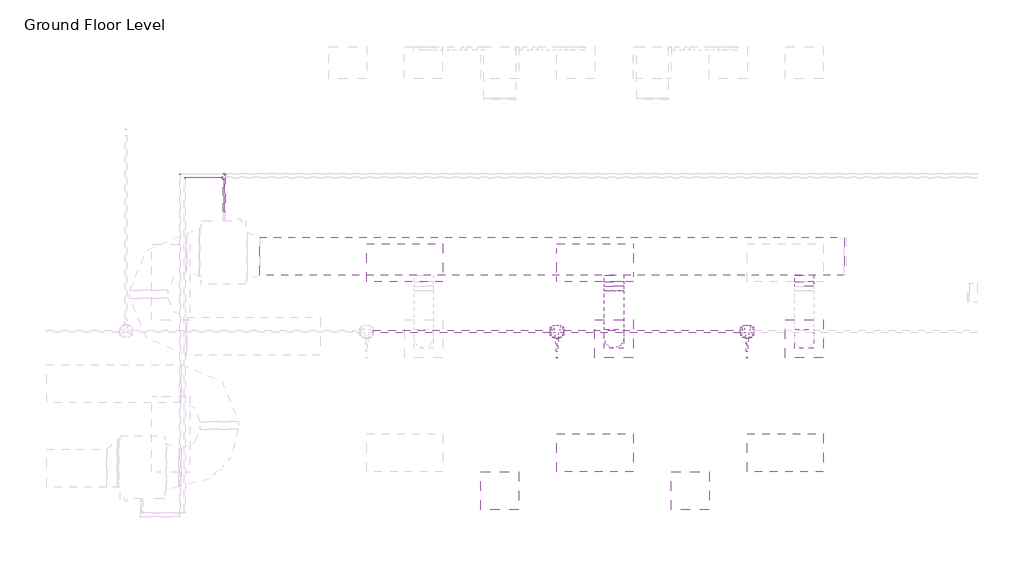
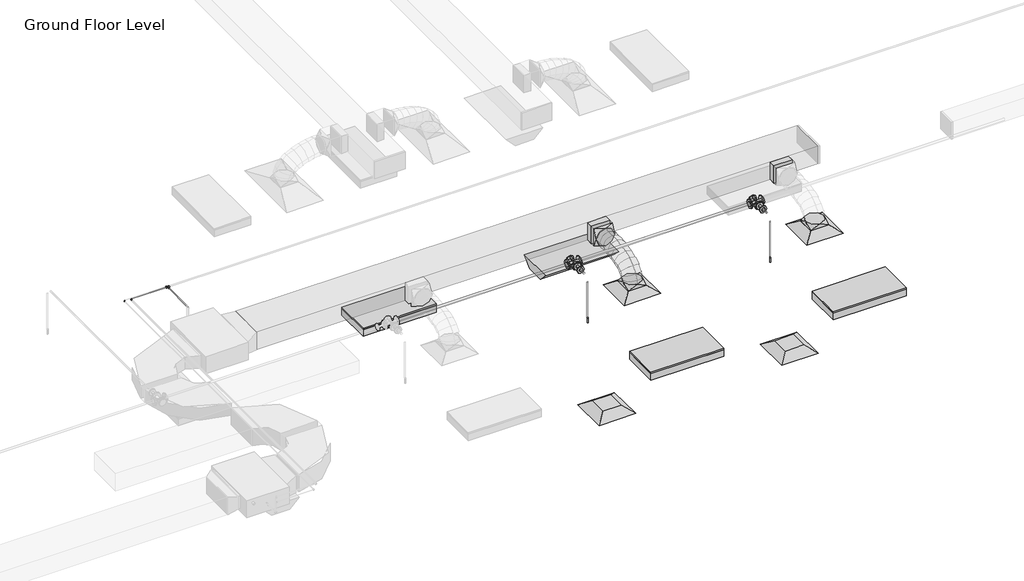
# One storey, part 13 of 75: 12 pipe fittings, 9 pipe segments, 5 duct fittings, 4 air terminals, 4 duct segments, 4 light fixtures, 2 fire suppression terminals.
"""IFC4 building model written with IfcOpenShell, lengths in millimetres."""

from ifc_helpers import new_model, si_unit, point, frame, frame_2d, origin, place, context, project, spatial, polyline, circle_curve, ellipse_curve, trimmed, segment, composite_curve, outline, extrude, transform, mapped, element, save
from ifc_brep_helpers import plane_surface, cylinder_surface, advanced_brep
from components import m_return_diffuser_600_x_600_face_300_x_300_connection_ff221211, m_rectangular_takeoff_standard_2be5eba1, m_rectangular_to_round_transition_angle_45_degree_641efff0, m_sprinkler_dry_pendent_hosted_15_mm_dry_pendent_9bda8e11, m_emergency_recessed_lighting_fixture_600x1200_277_5b10b25d, m_troffer_light_parabolic_rectangular1_0600x1200mm_4_lamp_86473d4a, m_elbow_generic_standard_a088f956, m_elbow_generic_standard_2a704253, m_reducer_flanged_cs_class_150_standard_678fb8eb, m_tee_generic_standard_5b2ed4d4, m_tee_generic_standard_5078887e, m_tee_round_base_flanged_cs_class_150_standard_9c9133d0, m_transition_generic_standard_bdcfe2c1, m_transition_generic_standard_44e35838, m_transition_generic_standard_0bb1ffaf, m_transition_generic_standard_cdf71458

model = new_model("IFC4")

# Units and contexts
model_context = context("Model", 3, world=origin())
ifc_project = project(units=[si_unit("LENGTHUNIT", "METRE", prefix="MILLI")], contexts=[model_context])

# Site, building, storey
site = spatial("IfcSite", under=ifc_project)
building = spatial("IfcBuilding", under=site)
storey = spatial("IfcBuildingStorey", under=building, Name="Ground Floor Level", Elevation=900.0)

# Air terminals
placement = place(None, origin())
m_return_diffuser_600_x_600_face_300_x_300_connection_shape = m_return_diffuser_600_x_600_face_300_x_300_connection_ff221211(model_context)
element("IfcAirTerminal", 1, ObjectType="M_Return Diffuser : 600 x 600 Face 300 x 300 Connection", at=placement, inside=storey, context=model_context, shape_type="MappedRepresentation", body=[
    mapped(m_return_diffuser_600_x_600_face_300_x_300_connection_shape, transform((-6937.2327605, -5464.7846466, 3650.0), x_axis=(1.0, 0.0, 0.0), y_axis=(0.0, 1.0, 0.0), z_axis=(0.0, 0.0, 1.0))),
])
element("IfcAirTerminal", 2, ObjectType="M_Return Diffuser : 600 x 600 Face 300 x 300 Connection", at=placement, inside=storey, context=model_context, shape_type="MappedRepresentation", body=[
    mapped(m_return_diffuser_600_x_600_face_300_x_300_connection_shape, transform((-3937.2327605, -5464.7846466, 3650.0), x_axis=(1.0, 0.0, 0.0), y_axis=(0.0, 1.0, 0.0), z_axis=(0.0, 0.0, 1.0))),
])
element("IfcAirTerminal", 3, ObjectType="M_Supply Diffuser : 600 x 600 Face 300 x 300 Connection", at=placement, inside=storey, context=model_context, shape_type="MappedRepresentation", body=[
    mapped(m_return_diffuser_600_x_600_face_300_x_300_connection_shape, transform((-5137.2327605, -3064.7846466, 3650.0), x_axis=(1.0, 0.0, 0.0), y_axis=(0.0, 1.0, 0.0), z_axis=(0.0, 0.0, 1.0))),
])
element("IfcAirTerminal", 4, ObjectType="M_Supply Diffuser : 600 x 600 Face 300 x 300 Connection", at=placement, inside=storey, context=model_context, shape_type="MappedRepresentation", body=[
    mapped(m_return_diffuser_600_x_600_face_300_x_300_connection_shape, transform((-2137.2327605, -3064.7846466, 3650.0), x_axis=(1.0, 0.0, 0.0), y_axis=(0.0, 1.0, 0.0), z_axis=(0.0, 0.0, 1.0))),
])

# Duct fittings
m_rectangular_takeoff_standard_shape = m_rectangular_takeoff_standard_2be5eba1(model_context)
element("IfcDuctFitting", 5, ObjectType="M_Rectangular Takeoff : Standard", at=placement, inside=storey, context=model_context, shape_type="MappedRepresentation", body=[
    mapped(m_rectangular_takeoff_standard_shape, transform((-2137.2327605, -2068.2846466, 4099.9882429), x_axis=(0.0, -1.0, 0.0), y_axis=(-1.0, 0.0, 0.0), z_axis=(0.0, 0.0, -1.0))),
])
element("IfcDuctFitting", 6, ObjectType="M_Rectangular Takeoff : Standard", at=placement, inside=storey, context=model_context, shape_type="MappedRepresentation", body=[
    mapped(m_rectangular_takeoff_standard_shape, transform((-5137.2327605, -2068.2846466, 4099.9923494), x_axis=(0.0, -1.0, 0.0), y_axis=(-1.0, 0.0, 0.0), z_axis=(0.0, 0.0, -1.0))),
])
m_rectangular_to_round_transition_angle_45_degree_shape = m_rectangular_to_round_transition_angle_45_degree_641efff0(model_context)
element("IfcDuctFitting", 7, ObjectType="M_Rectangular to Round Transition - Angle : 45 Degree", at=placement, inside=storey, context=model_context, shape_type="MappedRepresentation", body=[
    mapped(m_rectangular_to_round_transition_angle_45_degree_shape, transform((-2137.2327605, -3064.7846466, 3751.6), x_axis=(0.0, 0.0, 1.0), y_axis=(-1.0, 0.0, 0.0), z_axis=(0.0, -1.0, 0.0))),
])
element("IfcDuctFitting", 8, ObjectType="M_Rectangular to Round Transition - Angle : 45 Degree", at=placement, inside=storey, context=model_context, shape_type="MappedRepresentation", body=[
    mapped(m_rectangular_to_round_transition_angle_45_degree_shape, transform((-5137.2327605, -3064.7846466, 3751.6), x_axis=(0.0, 0.0, 1.0), y_axis=(-1.0, 0.0, 0.0), z_axis=(0.0, -1.0, 0.0))),
])
element("IfcDuctFitting", 9, ObjectType="M_Rectangular to Round Transition - Angle : 45 Degree", at=placement, inside=storey, context=model_context, shape_type="MappedRepresentation", body=[
    mapped(m_rectangular_to_round_transition_angle_45_degree_shape, transform((-5137.2327605, -2237.4410647, 4099.9923494), x_axis=(0.0, -1.0, 0.0), y_axis=(1.0, 0.0, 0.0), z_axis=(0.0, 0.0, 1.0))),
])

# Duct segments
element("IfcDuctSegment", 10, ObjectType="Flex - Round", at=placement, inside=storey, context=model_context, shape_type="AdvancedBrep", body=[
    advanced_brep(
    [(-4987.2327605, -3064.7846466, 3826.6), (-5137.2327605, -3214.7846466, 3826.6), (-5287.2327605, -3064.7846466, 3826.6), (-5137.2327605, -2914.7846466, 3826.6), (-4987.2327605, -3064.7846466, 3857.9380326), (-5137.2327605, -3214.7846466, 3883.5816473), (-5287.2327605, -3064.7846466, 3857.9380326), (-5137.2327605, -2914.7846466, 3832.2944178), (-4987.2327605, -3047.7685019, 3906.2507123), (-5137.2327605, -3181.505999, 3978.0672475), (-5287.2327605, -3047.7685019, 3906.2507123), (-5137.2327605, -2914.0310048, 3834.4341772), (-4987.2327605, -3000.584044, 3968.710963), (-5137.2327605, -3104.7886338, 4079.6215744), (-5287.2327605, -3000.584044, 3968.710963), (-5137.2327605, -2896.3794543, 3857.8003516), (-4987.2327605, -2929.0272371, 4016.0687585), (-5137.2327605, -2997.9592292, 4150.3235149), (-5287.2327605, -2929.0272371, 4016.0687585), (-5137.2327605, -2860.095245, 3881.8140022), (-4987.2327605, -2838.8940455, 4050.4121057), (-5137.2327605, -2882.4525531, 4194.3348919), (-5287.2327605, -2838.8940455, 4050.4121057), (-5137.2327605, -2795.3355379, 3906.4893195), (-4987.2327605, -2735.9804334, 4073.8290112), (-5137.2327605, -2762.5392192, 4221.6199045), (-5287.2327605, -2735.9804334, 4073.8290112), (-5137.2327605, -2709.4216475, 3926.0381179), (-4987.2327605, -2626.082365, 4088.4074817), (-5137.2327605, -2641.2314089, 4237.7119283), (-5287.2327605, -2626.082365, 4088.4074817), (-5137.2327605, -2610.9333211, 3939.103035), (-4987.2327605, -2514.9958046, 4096.2355237), (-5137.2327605, -2522.4996869, 4246.0787092), (-5287.2327605, -2514.9958046, 4096.2355237), (-5137.2327605, -2507.4919223, 3946.3923382), (-4987.2327605, -2408.5167164, 4099.4011441), (-5137.2327605, -2411.2073599, 4249.387427), (-5287.2327605, -2408.5167164, 4099.4011441), (-5137.2327605, -2405.8260729, 3949.4148611), (-4987.2327605, -2312.4410647, 4099.9923494), (-5137.2327605, -2311.5180513, 3949.9951892), (-5287.2327605, -2312.4410647, 4099.9923494), (-5137.2327605, -2313.3640781, 4249.9895095)],
    [
        (0, 1, circle_curve(frame((-5137.2327605, -3064.7846466, 3826.6), z_axis=(0.0, 0.0, -1.0), x_axis=(1.0, 0.0, 0.0)), 150.0)),
        (1, 2, circle_curve(frame((-5137.2327605, -3064.7846466, 3826.6), z_axis=(0.0, 0.0, -1.0), x_axis=(1.0, 0.0, 0.0)), 150.0)),
        (2, 3, circle_curve(frame((-5137.2327605, -3064.7846466, 3826.6), z_axis=(0.0, 0.0, -1.0), x_axis=(1.0, 0.0, 0.0)), 150.0)),
        (3, 0, circle_curve(frame((-5137.2327605, -3064.7846466, 3826.6), z_axis=(0.0, 0.0, -1.0), x_axis=(1.0, 0.0, 0.0)), 150.0)),
        (0, 4),
        (4, 5, ellipse_curve(frame((-5137.2327605, -3064.7846466, 3857.9380326), z_axis=(0.0, -0.16851265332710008, -0.9856994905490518), x_axis=(0.0, 0.9856994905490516, -0.16851265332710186)), 152.1761971, 150.0)),
        (5, 1),
        (5, 6, ellipse_curve(frame((-5137.2327605, -3064.7846466, 3857.9380326), z_axis=(0.0, -0.16851265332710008, -0.9856994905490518), x_axis=(0.0, 0.9856994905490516, -0.16851265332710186)), 152.1761971, 150.0)),
        (6, 2),
        (6, 7, ellipse_curve(frame((-5137.2327605, -3064.7846466, 3857.9380326), z_axis=(0.0, -0.16851265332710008, -0.9856994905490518), x_axis=(0.0, 0.9856994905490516, -0.16851265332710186)), 152.1761971, 150.0)),
        (7, 3),
        (7, 4, ellipse_curve(frame((-5137.2327605, -3064.7846466, 3857.9380326), z_axis=(0.0, -0.16851265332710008, -0.9856994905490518), x_axis=(0.0, 0.9856994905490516, -0.16851265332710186)), 152.1761971, 150.0)),
        (4, 8),
        (8, 9, ellipse_curve(frame((-5137.2327605, -3047.7685019, 3906.2507123), z_axis=(0.0, -0.47309875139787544, -0.881009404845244), x_axis=(0.0, 0.8810094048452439, -0.47309875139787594)), 151.8003058, 150.0)),
        (9, 5),
        (9, 10, ellipse_curve(frame((-5137.2327605, -3047.7685019, 3906.2507123), z_axis=(0.0, -0.47309875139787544, -0.881009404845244), x_axis=(0.0, 0.8810094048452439, -0.47309875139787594)), 151.8003058, 150.0)),
        (10, 6),
        (10, 11, ellipse_curve(frame((-5137.2327605, -3047.7685019, 3906.2507123), z_axis=(0.0, -0.47309875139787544, -0.881009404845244), x_axis=(0.0, 0.8810094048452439, -0.47309875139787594)), 151.8003058, 150.0)),
        (11, 7),
        (11, 8, ellipse_curve(frame((-5137.2327605, -3047.7685019, 3906.2507123), z_axis=(0.0, -0.47309875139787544, -0.881009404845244), x_axis=(0.0, 0.8810094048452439, -0.47309875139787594)), 151.8003058, 150.0)),
        (8, 12),
        (12, 13, ellipse_curve(frame((-5137.2327605, -3000.584044, 3968.710963), z_axis=(0.0, -0.7287961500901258, -0.6847307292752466), x_axis=(0.0, 0.6847307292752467, -0.7287961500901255)), 152.1833113, 150.0)),
        (13, 9),
        (13, 14, ellipse_curve(frame((-5137.2327605, -3000.584044, 3968.710963), z_axis=(0.0, -0.7287961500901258, -0.6847307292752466), x_axis=(0.0, 0.6847307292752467, -0.7287961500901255)), 152.1833113, 150.0)),
        (14, 10),
        (14, 15, ellipse_curve(frame((-5137.2327605, -3000.584044, 3968.710963), z_axis=(0.0, -0.7287961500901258, -0.6847307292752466), x_axis=(0.0, 0.6847307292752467, -0.7287961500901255)), 152.1833113, 150.0)),
        (15, 11),
        (15, 12, ellipse_curve(frame((-5137.2327605, -3000.584044, 3968.710963), z_axis=(0.0, -0.7287961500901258, -0.6847307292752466), x_axis=(0.0, 0.6847307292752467, -0.7287961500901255)), 152.1833113, 150.0)),
        (12, 16),
        (16, 17, ellipse_curve(frame((-5137.2327605, -2929.0272371, 4016.0687585), z_axis=(0.0, -0.8895929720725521, -0.4567541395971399), x_axis=(0.0, 0.45675413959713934, -0.8895929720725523)), 150.9170604, 150.0)),
        (17, 13),
        (17, 18, ellipse_curve(frame((-5137.2327605, -2929.0272371, 4016.0687585), z_axis=(0.0, -0.8895929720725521, -0.4567541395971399), x_axis=(0.0, 0.45675413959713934, -0.8895929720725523)), 150.9170604, 150.0)),
        (18, 14),
        (18, 19, ellipse_curve(frame((-5137.2327605, -2929.0272371, 4016.0687585), z_axis=(0.0, -0.8895929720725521, -0.4567541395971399), x_axis=(0.0, 0.45675413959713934, -0.8895929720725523)), 150.9170604, 150.0)),
        (19, 15),
        (19, 16, ellipse_curve(frame((-5137.2327605, -2929.0272371, 4016.0687585), z_axis=(0.0, -0.8895929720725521, -0.4567541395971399), x_axis=(0.0, 0.45675413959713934, -0.8895929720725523)), 150.9170604, 150.0)),
        (16, 20),
        (20, 21, ellipse_curve(frame((-5137.2327605, -2838.8940455, 4050.4121057), z_axis=(0.0, -0.9571248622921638, -0.2896756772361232), x_axis=(0.0, 0.28967567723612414, -0.9571248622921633)), 150.3699171, 150.0)),
        (21, 17),
        (21, 22, ellipse_curve(frame((-5137.2327605, -2838.8940455, 4050.4121057), z_axis=(0.0, -0.9571248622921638, -0.2896756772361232), x_axis=(0.0, 0.28967567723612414, -0.9571248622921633)), 150.3699171, 150.0)),
        (22, 18),
        (22, 23, ellipse_curve(frame((-5137.2327605, -2838.8940455, 4050.4121057), z_axis=(0.0, -0.9571248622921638, -0.2896756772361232), x_axis=(0.0, 0.28967567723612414, -0.9571248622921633)), 150.3699171, 150.0)),
        (23, 19),
        (23, 20, ellipse_curve(frame((-5137.2327605, -2838.8940455, 4050.4121057), z_axis=(0.0, -0.9571248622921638, -0.2896756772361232), x_axis=(0.0, 0.28967567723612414, -0.9571248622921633)), 150.3699171, 150.0)),
        (20, 24),
        (24, 25, ellipse_curve(frame((-5137.2327605, -2735.9804334, 4073.8290112), z_axis=(0.0, -0.984233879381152, -0.17687190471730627), x_axis=(0.0, 0.17687190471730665, -0.984233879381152)), 150.1583073, 150.0)),
        (25, 21),
        (25, 26, ellipse_curve(frame((-5137.2327605, -2735.9804334, 4073.8290112), z_axis=(0.0, -0.984233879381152, -0.17687190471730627), x_axis=(0.0, 0.17687190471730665, -0.984233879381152)), 150.1583073, 150.0)),
        (26, 22),
        (26, 27, ellipse_curve(frame((-5137.2327605, -2735.9804334, 4073.8290112), z_axis=(0.0, -0.984233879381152, -0.17687190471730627), x_axis=(0.0, 0.17687190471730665, -0.984233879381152)), 150.1583073, 150.0)),
        (27, 23),
        (27, 24, ellipse_curve(frame((-5137.2327605, -2735.9804334, 4073.8290112), z_axis=(0.0, -0.984233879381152, -0.17687190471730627), x_axis=(0.0, 0.17687190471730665, -0.984233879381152)), 150.1583073, 150.0)),
        (24, 28),
        (28, 29, ellipse_curve(frame((-5137.2327605, -2626.082365, 4088.4074817), z_axis=(0.0, -0.9948919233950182, -0.1009458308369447), x_axis=(0.0, 0.10094583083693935, -0.9948919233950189)), 150.0710209, 150.0)),
        (29, 25),
        (29, 30, ellipse_curve(frame((-5137.2327605, -2626.082365, 4088.4074817), z_axis=(0.0, -0.9948919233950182, -0.1009458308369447), x_axis=(0.0, 0.10094583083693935, -0.9948919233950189)), 150.0710209, 150.0)),
        (30, 26),
        (30, 31, ellipse_curve(frame((-5137.2327605, -2626.082365, 4088.4074817), z_axis=(0.0, -0.9948919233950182, -0.1009458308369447), x_axis=(0.0, 0.10094583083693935, -0.9948919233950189)), 150.0710209, 150.0)),
        (31, 27),
        (31, 28, ellipse_curve(frame((-5137.2327605, -2626.082365, 4088.4074817), z_axis=(0.0, -0.9948919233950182, -0.1009458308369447), x_axis=(0.0, 0.10094583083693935, -0.9948919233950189)), 150.0710209, 150.0)),
        (28, 32),
        (32, 33, ellipse_curve(frame((-5137.2327605, -2514.9958046, 4096.2355237), z_axis=(0.0, -0.9987484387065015, -0.05001555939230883), x_axis=(0.0, 0.05001555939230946, -0.9987484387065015)), 150.0309584, 150.0)),
        (33, 29),
        (33, 34, ellipse_curve(frame((-5137.2327605, -2514.9958046, 4096.2355237), z_axis=(0.0, -0.9987484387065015, -0.05001555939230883), x_axis=(0.0, 0.05001555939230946, -0.9987484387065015)), 150.0309584, 150.0)),
        (34, 30),
        (34, 35, ellipse_curve(frame((-5137.2327605, -2514.9958046, 4096.2355237), z_axis=(0.0, -0.9987484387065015, -0.05001555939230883), x_axis=(0.0, 0.05001555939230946, -0.9987484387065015)), 150.0309584, 150.0)),
        (35, 31),
        (35, 32, ellipse_curve(frame((-5137.2327605, -2514.9958046, 4096.2355237), z_axis=(0.0, -0.9987484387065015, -0.05001555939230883), x_axis=(0.0, 0.05001555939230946, -0.9987484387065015)), 150.0309584, 150.0)),
        (32, 36),
        (36, 37, ellipse_curve(frame((-5137.2327605, -2408.5167164, 4099.4011441), z_axis=(0.0, -0.9998391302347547, -0.01793637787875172), x_axis=(0.0, 0.017936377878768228, -0.9998391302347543)), 150.0104151, 150.0)),
        (37, 33),
        (37, 38, ellipse_curve(frame((-5137.2327605, -2408.5167164, 4099.4011441), z_axis=(0.0, -0.9998391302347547, -0.01793637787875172), x_axis=(0.0, 0.017936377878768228, -0.9998391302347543)), 150.0104151, 150.0)),
        (38, 34),
        (38, 39, ellipse_curve(frame((-5137.2327605, -2408.5167164, 4099.4011441), z_axis=(0.0, -0.9998391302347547, -0.01793637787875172), x_axis=(0.0, 0.017936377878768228, -0.9998391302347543)), 150.0104151, 150.0)),
        (39, 35),
        (39, 36, ellipse_curve(frame((-5137.2327605, -2408.5167164, 4099.4011441), z_axis=(0.0, -0.9998391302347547, -0.01793637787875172), x_axis=(0.0, 0.017936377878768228, -0.9998391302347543)), 150.0104151, 150.0)),
        (40, 41, circle_curve(frame((-5137.2327605, -2312.4410647, 4099.9923494), z_axis=(0.0, 0.9999810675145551, 0.0061534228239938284), x_axis=(1.0, 0.0, 0.0)), 150.0)),
        (41, 42, circle_curve(frame((-5137.2327605, -2312.4410647, 4099.9923494), z_axis=(0.0, 0.9999810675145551, 0.0061534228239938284), x_axis=(1.0, 0.0, 0.0)), 150.0)),
        (42, 43, circle_curve(frame((-5137.2327605, -2312.4410647, 4099.9923494), z_axis=(0.0, 0.9999810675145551, 0.0061534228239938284), x_axis=(1.0, 0.0, 0.0)), 150.0)),
        (43, 40, circle_curve(frame((-5137.2327605, -2312.4410647, 4099.9923494), z_axis=(0.0, 0.9999810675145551, 0.0061534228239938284), x_axis=(1.0, 0.0, 0.0)), 150.0)),
        (36, 40),
        (43, 37),
        (42, 38),
        (41, 39),
    ],
    [
        plane_surface(frame((-5137.2327605, -3214.7846466, 3826.6), z_axis=(0.0, 0.0, -1.0), x_axis=(1.0, 0.0, 0.0))),
        cylinder_surface(frame((-5137.2327605, -3064.7846466, 3826.6), z_axis=(0.0, 0.0, -1.0), x_axis=(1.0, 0.0, 0.0)), 150.0),
        cylinder_surface(frame((-5137.2327605, -3064.7846466, 3857.9380326), z_axis=(0.0, -0.33220567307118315, -0.9432069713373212), x_axis=(1.0, 0.0, 0.0)), 150.0),
        cylinder_surface(frame((-5137.2327605, -3047.7685019, 3906.2507123), z_axis=(0.0, -0.6027702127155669, -0.797914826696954), x_axis=(1.0, 0.0, 0.0)), 150.0),
        cylinder_surface(frame((-5137.2327605, -3000.584044, 3968.710963), z_axis=(0.0, -0.8339106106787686, -0.5518995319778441), x_axis=(1.0, 0.0, 0.0)), 150.0),
        cylinder_surface(frame((-5137.2327605, -2929.0272371, 4016.0687585), z_axis=(0.0, -0.9344639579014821, -0.3560577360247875), x_axis=(1.0, 0.0, 0.0)), 150.0),
        cylinder_surface(frame((-5137.2327605, -2838.8940455, 4050.4121057), z_axis=(0.0, -0.9750766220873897, -0.22186838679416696), x_axis=(1.0, 0.0, 0.0)), 150.0),
        cylinder_surface(frame((-5137.2327605, -2735.9804334, 4073.8290112), z_axis=(0.0, -0.9913158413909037, -0.13150248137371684), x_axis=(1.0, 0.0, 0.0)), 150.0),
        cylinder_surface(frame((-5137.2327605, -2626.082365, 4088.4074817), z_axis=(0.0, -0.9975263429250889, -0.07029363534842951), x_axis=(1.0, 0.0, 0.0)), 150.0),
        cylinder_surface(frame((-5137.2327605, -2514.9958046, 4096.2355237), z_axis=(0.0, -0.9995583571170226, -0.029716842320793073), x_axis=(1.0, 0.0, 0.0)), 150.0),
        plane_surface(frame((-5137.2327605, -2313.3640781, 4249.9895095), z_axis=(0.0, 0.9999810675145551, 0.006153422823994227), x_axis=(1.0, 0.0, 0.0))),
        cylinder_surface(frame((-5137.2327605, -2408.5167164, 4099.4011441), z_axis=(0.0, -0.9999810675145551, -0.0061534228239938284), x_axis=(1.0, 0.0, 0.0)), 150.0),
    ],
    [
        (0, [[1, 2, 3, 4]]),
        (1, [[-1, 5, 6, 7]]),
        (1, [[-2, -7, 8, 9]]),
        (1, [[-3, -9, 10, 11]]),
        (1, [[-4, -11, 12, -5]]),
        (2, [[-6, 13, 14, 15]]),
        (2, [[-8, -15, 16, 17]]),
        (2, [[-10, -17, 18, 19]]),
        (2, [[-12, -19, 20, -13]]),
        (3, [[-14, 21, 22, 23]]),
        (3, [[-16, -23, 24, 25]]),
        (3, [[-18, -25, 26, 27]]),
        (3, [[-20, -27, 28, -21]]),
        (4, [[-22, 29, 30, 31]]),
        (4, [[-24, -31, 32, 33]]),
        (4, [[-26, -33, 34, 35]]),
        (4, [[-28, -35, 36, -29]]),
        (5, [[-30, 37, 38, 39]]),
        (5, [[-32, -39, 40, 41]]),
        (5, [[-34, -41, 42, 43]]),
        (5, [[-36, -43, 44, -37]]),
        (6, [[-38, 45, 46, 47]]),
        (6, [[-40, -47, 48, 49]]),
        (6, [[-42, -49, 50, 51]]),
        (6, [[-44, -51, 52, -45]]),
        (7, [[-46, 53, 54, 55]]),
        (7, [[-48, -55, 56, 57]]),
        (7, [[-50, -57, 58, 59]]),
        (7, [[-52, -59, 60, -53]]),
        (8, [[-54, 61, 62, 63]]),
        (8, [[-56, -63, 64, 65]]),
        (8, [[-58, -65, 66, 67]]),
        (8, [[-60, -67, 68, -61]]),
        (9, [[-62, 69, 70, 71]]),
        (9, [[-64, -71, 72, 73]]),
        (9, [[-66, -73, 74, 75]]),
        (9, [[-68, -75, 76, -69]]),
        (10, [[77, 78, 79, 80]]),
        (11, [[-70, 81, -80, 82]]),
        (11, [[-72, -82, -79, 83]]),
        (11, [[-74, -83, -78, 84]]),
        (11, [[-76, -84, -77, -81]]),
    ],
),
])
element("IfcDuctSegment", 11, ObjectType="Radius Elbows / Taps", at=placement, inside=storey, context=model_context, shape_type="SweptSolid", body=[
    extrude(outline(polyline([(0.0, -600.0), (0.0, 0.0), (9224.5995898, 0.0), (9224.5995898, -600.0), (0.0, -600.0)])), frame((-10726.4325556, -1468.2846466, 3950.0), z_axis=(1.3688243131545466e-06, 0.0, 0.9999999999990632), x_axis=(0.9999999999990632, 0.0, -1.3688243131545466e-06)), (0.0, 0.0, 1.0), 300.0),
])
element("IfcDuctSegment", 12, ObjectType="Radius Elbows / Taps", at=placement, inside=storey, context=model_context, shape_type="SweptSolid", body=[
    extrude(outline(polyline([(-2287.2327605, -2169.8846466), (-1987.2327605, -2169.8846466), (-1987.2327605, -2237.4369582), (-2287.2327605, -2237.4369582), (-2287.2327605, -2169.8846466)])), frame((0.0, 0.0, 3949.9882429), z_axis=(0.0, 0.0, 1.0), x_axis=(1.0, 0.0, 0.0)), (0.0, 0.0, 1.0), 300.0),
])
element("IfcDuctSegment", 13, ObjectType="Radius Elbows / Taps", at=placement, inside=storey, context=model_context, shape_type="SweptSolid", body=[
    extrude(outline(polyline([(-5287.2327605, -2169.8846466), (-4987.2327605, -2169.8846466), (-4987.2327605, -2237.4410647), (-5287.2327605, -2237.4410647), (-5287.2327605, -2169.8846466)])), frame((0.0, 0.0, 3949.9923494), z_axis=(0.0, 0.0, 1.0), x_axis=(1.0, 0.0, 0.0)), (0.0, 0.0, 1.0), 300.0),
])

# Fire suppression terminals
m_sprinkler_dry_pendent_hosted_15_mm_dry_pendent_shape = m_sprinkler_dry_pendent_hosted_15_mm_dry_pendent_9bda8e11(model_context)
element("IfcFireSuppressionTerminal", 14, ObjectType="M_Sprinkler - Dry - Pendent - Hosted : 15 mm Dry Pendent", at=placement, inside=storey, context=model_context, shape_type="MappedRepresentation", body=[
    mapped(m_sprinkler_dry_pendent_hosted_15_mm_dry_pendent_shape, transform((-6037.2327605, -3364.7846466, 3650.0), x_axis=(1.0, 0.0, 0.0), y_axis=(0.0, -1.0, 0.0), z_axis=(0.0, 0.0, -1.0))),
])
element("IfcFireSuppressionTerminal", 15, ObjectType="M_Sprinkler - Dry - Pendent - Hosted : 15 mm Dry Pendent", at=placement, inside=storey, context=model_context, shape_type="MappedRepresentation", body=[
    mapped(m_sprinkler_dry_pendent_hosted_15_mm_dry_pendent_shape, transform((-3037.2327605, -3364.7846466, 3650.0), x_axis=(1.0, 0.0, 0.0), y_axis=(0.0, -1.0, 0.0), z_axis=(0.0, 0.0, -1.0))),
])

# Light fixtures
m_emergency_recessed_lighting_fixture_600x1200_277_shape = m_emergency_recessed_lighting_fixture_600x1200_277_5b10b25d(model_context)
element("IfcLightFixture", 16, ObjectType="M_Emergency Recessed Lighting Fixture : 600x1200 - 277", at=placement, inside=storey, context=model_context, shape_type="MappedRepresentation", body=[
    mapped(m_emergency_recessed_lighting_fixture_600x1200_277_shape, transform((-6037.2327605, -1564.7846466, 3650.0), x_axis=(1.0, 0.0, 0.0), y_axis=(0.0, 1.0, 0.0), z_axis=(0.0, 0.0, 1.0))),
])
m_troffer_light_parabolic_rectangular1_0600x1200mm_4_lamp_shape = m_troffer_light_parabolic_rectangular1_0600x1200mm_4_lamp_86473d4a(model_context)
element("IfcLightFixture", 17, ObjectType="M_Troffer Light - Parabolic Rectangular1 : 0600x1200mm(4 Lamp) - 277V 2", at=placement, inside=storey, context=model_context, shape_type="MappedRepresentation", body=[
    mapped(m_troffer_light_parabolic_rectangular1_0600x1200mm_4_lamp_shape, transform((-8418.5292589, -1805.3187145, 3650.0), x_axis=(1.0, 0.0, 0.0), y_axis=(0.0, 1.0, 0.0), z_axis=(0.0, 0.0, 1.0))),
])
element("IfcLightFixture", 18, ObjectType="M_Troffer Light - Parabolic Rectangular1 : 0600x1200mm(4 Lamp) - 277V 2", at=placement, inside=storey, context=model_context, shape_type="MappedRepresentation", body=[
    mapped(m_troffer_light_parabolic_rectangular1_0600x1200mm_4_lamp_shape, transform((-2418.5292589, -4805.3187145, 3650.0), x_axis=(1.0, 0.0, 0.0), y_axis=(0.0, 1.0, 0.0), z_axis=(0.0, 0.0, 1.0))),
])
element("IfcLightFixture", 19, ObjectType="M_Troffer Light - Parabolic Rectangular1 : 0600x1200mm(4 Lamp) - 277V 2", at=placement, inside=storey, context=model_context, shape_type="MappedRepresentation", body=[
    mapped(m_troffer_light_parabolic_rectangular1_0600x1200mm_4_lamp_shape, transform((-5418.5292589, -4805.3187145, 3650.0), x_axis=(1.0, 0.0, 0.0), y_axis=(0.0, 1.0, 0.0), z_axis=(0.0, 0.0, 1.0))),
])

# Pipe fittings
m_elbow_generic_standard_shape = m_elbow_generic_standard_a088f956(model_context)
element("IfcPipeFitting", 20, ObjectType="M_Elbow - Generic : Standard", at=placement, inside=storey, context=model_context, shape_type="MappedRepresentation", body=[
    mapped(m_elbow_generic_standard_shape, transform((-11906.7458667, -523.9901455, 4300.0), x_axis=(-1.0, 0.0, 0.0), y_axis=(0.0, -1.0, 0.0), z_axis=(0.0, 0.0, 1.0))),
])
m_elbow_generic_standard_2_shape = m_elbow_generic_standard_2a704253(model_context)
element("IfcPipeFitting", 21, ObjectType="M_Elbow - Generic : Standard", at=placement, inside=storey, context=model_context, shape_type="MappedRepresentation", body=[
    mapped(m_elbow_generic_standard_2_shape, transform((-11985.4153711, -465.9814862, 4265.0), x_axis=(-1.0, 0.0, 0.0), y_axis=(0.0, -1.0, 0.0), z_axis=(0.0, 0.0, 1.0))),
])
m_reducer_flanged_cs_class_150_standard_shape = m_reducer_flanged_cs_class_150_standard_678fb8eb(model_context)
element("IfcPipeFitting", 22, ObjectType="M_Reducer - Flanged - CS - Class 150 : Standard", at=placement, inside=storey, context=model_context, shape_type="MappedRepresentation", body=[
    mapped(m_reducer_flanged_cs_class_150_standard_shape, transform((-3037.2327605, -3056.447793, 4360.0), x_axis=(0.0, -1.0, 0.0), y_axis=(1.0, 0.0, 0.0), z_axis=(0.0, 0.0, 1.0))),
])
element("IfcPipeFitting", 23, ObjectType="M_Reducer - Flanged - CS - Class 150 : Standard", at=placement, inside=storey, context=model_context, shape_type="MappedRepresentation", body=[
    mapped(m_reducer_flanged_cs_class_150_standard_shape, transform((-6037.2327605, -3056.447793, 4360.0), x_axis=(0.0, -1.0, 0.0), y_axis=(1.0, 0.0, 0.0), z_axis=(0.0, 0.0, 1.0))),
])
m_tee_generic_standard_shape = m_tee_generic_standard_5b2ed4d4(model_context)
element("IfcPipeFitting", 24, ObjectType="M_Tee - Generic : Standard", at=placement, inside=storey, context=model_context, shape_type="MappedRepresentation", body=[
    mapped(m_tee_generic_standard_shape, transform((-11272.2327605, -465.9814862, 4265.0), x_axis=(1.0, 0.0, 0.0), y_axis=(0.0, 1.0, 0.0), z_axis=(0.0, 0.0, 1.0))),
])
m_tee_generic_standard_2_shape = m_tee_generic_standard_5078887e(model_context)
element("IfcPipeFitting", 25, ObjectType="M_Tee - Generic : Standard", at=placement, inside=storey, context=model_context, shape_type="MappedRepresentation", body=[
    mapped(m_tee_generic_standard_2_shape, transform((-11297.2327605, -523.9901455, 4300.0), x_axis=(1.0, 0.0, 0.0), y_axis=(0.0, 1.0, 0.0), z_axis=(0.0, 0.0, 1.0))),
])
m_tee_round_base_flanged_cs_class_150_standard_shape = m_tee_round_base_flanged_cs_class_150_standard_9c9133d0(model_context)
element("IfcPipeFitting", 26, ObjectType="M_Tee Round Base - Flanged - CS - Class 150 : Standard", at=placement, inside=storey, context=model_context, shape_type="MappedRepresentation", body=[
    mapped(m_tee_round_base_flanged_cs_class_150_standard_shape, transform((-3037.2327605, -2950.3491993, 4360.0), x_axis=(1.0, 0.0, 0.0), y_axis=(0.0, 1.0, 0.0), z_axis=(0.0, 0.0, 1.0))),
])
element("IfcPipeFitting", 27, ObjectType="M_Tee Round Base - Flanged - CS - Class 150 : Standard", at=placement, inside=storey, context=model_context, shape_type="MappedRepresentation", body=[
    mapped(m_tee_round_base_flanged_cs_class_150_standard_shape, transform((-6037.2327605, -2950.3491993, 4360.0), x_axis=(1.0, 0.0, 0.0), y_axis=(0.0, 1.0, 0.0), z_axis=(0.0, 0.0, 1.0))),
])
m_transition_generic_standard_shape = m_transition_generic_standard_bdcfe2c1(model_context)
element("IfcPipeFitting", 28, ObjectType="M_Transition - Generic : Standard", at=placement, inside=storey, context=model_context, shape_type="MappedRepresentation", body=[
    mapped(m_transition_generic_standard_shape, transform((-11272.2327605, -486.6189862, 4265.0), x_axis=(0.0, -1.0, 0.0), y_axis=(1.0, 0.0, 0.0), z_axis=(0.0, 0.0, 1.0))),
])
m_transition_generic_standard_2_shape = m_transition_generic_standard_44e35838(model_context)
element("IfcPipeFitting", 29, ObjectType="M_Transition - Generic : Standard", at=placement, inside=storey, context=model_context, shape_type="MappedRepresentation", body=[
    mapped(m_transition_generic_standard_2_shape, transform((-11297.2327605, -547.8026455, 4300.0), x_axis=(0.0, -1.0, 0.0), y_axis=(1.0, 0.0, 0.0), z_axis=(0.0, 0.0, 1.0))),
])
m_transition_generic_standard_3_shape = m_transition_generic_standard_0bb1ffaf(model_context)
element("IfcPipeFitting", 30, ObjectType="M_Transition - Generic : Standard", at=placement, inside=storey, context=model_context, shape_type="MappedRepresentation", body=[
    mapped(m_transition_generic_standard_3_shape, transform((-11326.6015105, -523.9901455, 4300.0), x_axis=(1.0, 0.0, 0.0), y_axis=(0.0, 1.0, 0.0), z_axis=(0.0, 0.0, 1.0))),
])
m_transition_generic_standard_4_shape = m_transition_generic_standard_cdf71458(model_context)
element("IfcPipeFitting", 31, ObjectType="M_Transition - Generic : Standard", at=placement, inside=storey, context=model_context, shape_type="MappedRepresentation", body=[
    mapped(m_transition_generic_standard_4_shape, transform((-11296.8390105, -465.9814862, 4265.0), x_axis=(1.0, 0.0, 0.0), y_axis=(0.0, 1.0, 0.0), z_axis=(0.0, 0.0, 1.0))),
])

# Pipe segments
element("IfcPipeSegment", 32, ObjectType="Copper", at=placement, inside=storey, context=model_context, shape_type="SweptSolid", body=[
    extrude(outline(composite_curve([segment(trimmed(circle_curve(frame_2d((4300.0, -11297.2327605)), 6.5), [point((4300.0, -11290.7327605))], [point((4306.5, -11297.2327605))], False, "CARTESIAN"), True, "CONTINUOUS"), segment(trimmed(circle_curve(frame_2d((4300.0, -11297.2327605)), 6.5), [point((4306.5, -11297.2327605))], [point((4300.0, -11303.7327605))], False, "CARTESIAN"), True, "CONTINUOUS"), segment(trimmed(circle_curve(frame_2d((4300.0, -11297.2327605)), 6.5), [point((4300.0, -11303.7327605))], [point((4293.5, -11297.2327605))], False, "CARTESIAN"), True, "CONTINUOUS"), segment(trimmed(circle_curve(frame_2d((4300.0, -11297.2327605)), 6.5), [point((4293.5, -11297.2327605))], [point((4300.0, -11290.7327605))], False, "CARTESIAN"), True, "CONTINUOUS")], self_intersect=False)), frame((0.0, -1057.7096568, 0.0), z_axis=(0.0, 1.0, 0.0), x_axis=(0.0, 0.0, 1.0)), (0.0, 0.0, 1.0), 504.3507613),
])
element("IfcPipeSegment", 33, ObjectType="Copper", at=placement, inside=storey, context=model_context, shape_type="SweptSolid", body=[
    extrude(outline(composite_curve([segment(trimmed(circle_curve(frame_2d((4265.0, -11272.2327605)), 3.35), [point((4265.0, -11268.8827605))], [point((4268.35, -11272.2327605))], False, "CARTESIAN"), True, "CONTINUOUS"), segment(trimmed(circle_curve(frame_2d((4265.0, -11272.2327605)), 3.35), [point((4268.35, -11272.2327605))], [point((4265.0, -11275.5827605))], False, "CARTESIAN"), True, "CONTINUOUS"), segment(trimmed(circle_curve(frame_2d((4265.0, -11272.2327605)), 3.35), [point((4265.0, -11275.5827605))], [point((4261.65, -11272.2327605))], False, "CARTESIAN"), True, "CONTINUOUS"), segment(trimmed(circle_curve(frame_2d((4265.0, -11272.2327605)), 3.35), [point((4261.65, -11272.2327605))], [point((4265.0, -11268.8827605))], False, "CARTESIAN"), True, "CONTINUOUS")], self_intersect=False)), frame((0.0, -1064.0097648, 0.0), z_axis=(0.0, 1.0, 0.0), x_axis=(0.0, 0.0, 1.0)), (0.0, 0.0, 1.0), 573.4220286),
])
element("IfcPipeSegment", 34, ObjectType="Copper", at=placement, inside=storey, context=model_context, shape_type="SweptSolid", body=[
    extrude(outline(composite_curve([segment(trimmed(circle_curve(frame_2d((-523.9901455, 4300.0)), 6.5), [point((-530.4901455, 4300.0))], [point((-523.9901455, 4306.5))], False, "CARTESIAN"), True, "CONTINUOUS"), segment(trimmed(circle_curve(frame_2d((-523.9901455, 4300.0)), 6.5), [point((-523.9901455, 4306.5))], [point((-517.4901455, 4300.0))], False, "CARTESIAN"), True, "CONTINUOUS"), segment(trimmed(circle_curve(frame_2d((-523.9901455, 4300.0)), 6.5), [point((-517.4901455, 4300.0))], [point((-523.9901455, 4293.5))], False, "CARTESIAN"), True, "CONTINUOUS"), segment(trimmed(circle_curve(frame_2d((-523.9901455, 4300.0)), 6.5), [point((-523.9901455, 4293.5))], [point((-530.4901455, 4300.0))], False, "CARTESIAN"), True, "CONTINUOUS")], self_intersect=False)), frame((-11892.4583667, 0.0, 0.0), z_axis=(1.0, 0.0, 0.0), x_axis=(0.0, 1.0, 0.0)), (0.0, 0.0, 1.0), 565.8568562),
])
element("IfcPipeSegment", 35, ObjectType="Steel flanged", at=placement, inside=storey, context=model_context, shape_type="SweptSolid", body=[
    extrude(outline(composite_curve([segment(trimmed(circle_curve(frame_2d((-3037.2327605, -3364.7846466)), 10.668), [point((-3047.9007605, -3364.7846466))], [point((-3037.2327605, -3354.1166466))], False, "CARTESIAN"), True, "CONTINUOUS"), segment(trimmed(circle_curve(frame_2d((-3037.2327605, -3364.7846466)), 10.668), [point((-3037.2327605, -3354.1166466))], [point((-3026.5647605, -3364.7846466))], False, "CARTESIAN"), True, "CONTINUOUS"), segment(trimmed(circle_curve(frame_2d((-3037.2327605, -3364.7846466)), 10.668), [point((-3026.5647605, -3364.7846466))], [point((-3037.2327605, -3375.4526466))], False, "CARTESIAN"), True, "CONTINUOUS"), segment(trimmed(circle_curve(frame_2d((-3037.2327605, -3364.7846466)), 10.668), [point((-3037.2327605, -3375.4526466))], [point((-3047.9007605, -3364.7846466))], False, "CARTESIAN"), True, "CONTINUOUS")], self_intersect=False)), frame((0.0, 0.0, 3650.0), z_axis=(0.0, 0.0, 1.0), x_axis=(1.0, 0.0, 0.0)), (0.0, 0.0, 1.0), 616.9914062),
])
element("IfcPipeSegment", 36, ObjectType="Steel flanged", at=placement, inside=storey, context=model_context, shape_type="SweptSolid", body=[
    extrude(outline(composite_curve([segment(trimmed(circle_curve(frame_2d((4360.0, -3037.2327605)), 10.668), [point((4360.0, -3026.5647605))], [point((4370.668, -3037.2327605))], False, "CARTESIAN"), True, "CONTINUOUS"), segment(trimmed(circle_curve(frame_2d((4360.0, -3037.2327605)), 10.668), [point((4370.668, -3037.2327605))], [point((4360.0, -3047.9007605))], False, "CARTESIAN"), True, "CONTINUOUS"), segment(trimmed(circle_curve(frame_2d((4360.0, -3037.2327605)), 10.668), [point((4360.0, -3047.9007605))], [point((4349.332, -3037.2327605))], False, "CARTESIAN"), True, "CONTINUOUS"), segment(trimmed(circle_curve(frame_2d((4360.0, -3037.2327605)), 10.668), [point((4349.332, -3037.2327605))], [point((4360.0, -3026.5647605))], False, "CARTESIAN"), True, "CONTINUOUS")], self_intersect=False)), frame((0.0, -3271.7760529, 0.0), z_axis=(0.0, 1.0, 0.0), x_axis=(0.0, 0.0, 1.0)), (0.0, 0.0, 1.0), 101.3282598),
])
element("IfcPipeSegment", 37, ObjectType="Steel flanged", at=placement, inside=storey, context=model_context, shape_type="SweptSolid", body=[
    extrude(outline(composite_curve([segment(trimmed(circle_curve(frame_2d((-6037.2327605, -3364.7846466)), 10.668), [point((-6047.9007605, -3364.7846466))], [point((-6037.2327605, -3354.1166466))], False, "CARTESIAN"), True, "CONTINUOUS"), segment(trimmed(circle_curve(frame_2d((-6037.2327605, -3364.7846466)), 10.668), [point((-6037.2327605, -3354.1166466))], [point((-6026.5647605, -3364.7846466))], False, "CARTESIAN"), True, "CONTINUOUS"), segment(trimmed(circle_curve(frame_2d((-6037.2327605, -3364.7846466)), 10.668), [point((-6026.5647605, -3364.7846466))], [point((-6037.2327605, -3375.4526466))], False, "CARTESIAN"), True, "CONTINUOUS"), segment(trimmed(circle_curve(frame_2d((-6037.2327605, -3364.7846466)), 10.668), [point((-6037.2327605, -3375.4526466))], [point((-6047.9007605, -3364.7846466))], False, "CARTESIAN"), True, "CONTINUOUS")], self_intersect=False)), frame((0.0, 0.0, 3650.0), z_axis=(0.0, 0.0, 1.0), x_axis=(1.0, 0.0, 0.0)), (0.0, 0.0, 1.0), 616.9914062),
])
element("IfcPipeSegment", 38, ObjectType="Steel flanged", at=placement, inside=storey, context=model_context, shape_type="SweptSolid", body=[
    extrude(outline(composite_curve([segment(trimmed(circle_curve(frame_2d((4360.0, -6037.2327605)), 10.668), [point((4360.0, -6026.5647605))], [point((4370.668, -6037.2327605))], False, "CARTESIAN"), True, "CONTINUOUS"), segment(trimmed(circle_curve(frame_2d((4360.0, -6037.2327605)), 10.668), [point((4370.668, -6037.2327605))], [point((4360.0, -6047.9007605))], False, "CARTESIAN"), True, "CONTINUOUS"), segment(trimmed(circle_curve(frame_2d((4360.0, -6037.2327605)), 10.668), [point((4360.0, -6047.9007605))], [point((4349.332, -6037.2327605))], False, "CARTESIAN"), True, "CONTINUOUS"), segment(trimmed(circle_curve(frame_2d((4360.0, -6037.2327605)), 10.668), [point((4349.332, -6037.2327605))], [point((4360.0, -6026.5647605))], False, "CARTESIAN"), True, "CONTINUOUS")], self_intersect=False)), frame((0.0, -3271.7760529, 0.0), z_axis=(0.0, 1.0, 0.0), x_axis=(0.0, 0.0, 1.0)), (0.0, 0.0, 1.0), 101.3282598),
])
element("IfcPipeSegment", 39, ObjectType="Steel flanged", at=placement, inside=storey, context=model_context, shape_type="SweptSolid", body=[
    extrude(outline(composite_curve([segment(trimmed(circle_curve(frame_2d((-2950.3491993, 4360.0)), 21.082), [point((-2929.2671993, 4360.0))], [point((-2950.3491993, 4338.918))], False, "CARTESIAN"), True, "CONTINUOUS"), segment(trimmed(circle_curve(frame_2d((-2950.3491993, 4360.0)), 21.082), [point((-2950.3491993, 4338.918))], [point((-2971.4311993, 4360.0))], False, "CARTESIAN"), True, "CONTINUOUS"), segment(trimmed(circle_curve(frame_2d((-2950.3491993, 4360.0)), 21.082), [point((-2971.4311993, 4360.0))], [point((-2950.3491993, 4381.082))], False, "CARTESIAN"), True, "CONTINUOUS"), segment(trimmed(circle_curve(frame_2d((-2950.3491993, 4360.0)), 21.082), [point((-2950.3491993, 4381.082))], [point((-2929.2671993, 4360.0))], False, "CARTESIAN"), True, "CONTINUOUS")], self_intersect=False)), frame((-5931.1341668, 0.0, 0.0), z_axis=(1.0, 0.0, 0.0), x_axis=(0.0, 1.0, 0.0)), (0.0, 0.0, 1.0), 2787.8028125),
])
element("IfcPipeSegment", 40, ObjectType="Steel flanged", at=placement, inside=storey, context=model_context, shape_type="SweptSolid", body=[
    extrude(outline(composite_curve([segment(trimmed(circle_curve(frame_2d((-2950.3491993, 4360.0)), 21.082), [point((-2929.2671993, 4360.0))], [point((-2950.3491993, 4338.918))], False, "CARTESIAN"), True, "CONTINUOUS"), segment(trimmed(circle_curve(frame_2d((-2950.3491993, 4360.0)), 21.082), [point((-2950.3491993, 4338.918))], [point((-2971.4311993, 4360.0))], False, "CARTESIAN"), True, "CONTINUOUS"), segment(trimmed(circle_curve(frame_2d((-2950.3491993, 4360.0)), 21.082), [point((-2971.4311993, 4360.0))], [point((-2950.3491993, 4381.082))], False, "CARTESIAN"), True, "CONTINUOUS"), segment(trimmed(circle_curve(frame_2d((-2950.3491993, 4360.0)), 21.082), [point((-2950.3491993, 4381.082))], [point((-2929.2671993, 4360.0))], False, "CARTESIAN"), True, "CONTINUOUS")], self_intersect=False)), frame((-8931.1341668, 0.0, 0.0), z_axis=(1.0, 0.0, 0.0), x_axis=(0.0, 1.0, 0.0)), (0.0, 0.0, 1.0), 2787.8028125),
])

save(model, "model.ifc")
